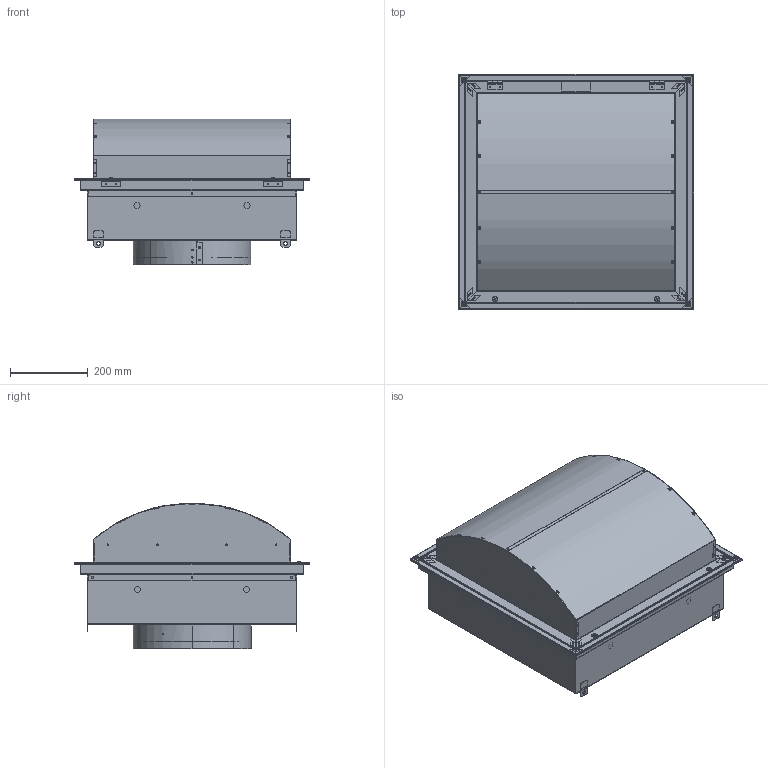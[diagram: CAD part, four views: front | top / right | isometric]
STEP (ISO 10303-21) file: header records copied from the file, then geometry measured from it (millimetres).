
FILE_DESCRIPTION (( 'STEP AP214' ), '1' );
FILE_NAME ('24 X 24_HRDP_.STEP', '2025-07-25T20:40:30', ( '' ), ( '' ), 'SwSTEP 2.0', 'SolidWorks 2024', '' );
FILE_SCHEMA (( 'AUTOMOTIVE_DESIGN' ));
Length unit declared in the file: inch
Products named in the file (42): 061325-HRDPs_PLASTER-SUB_L03; 061325-HRDPs_R3B2B-SUB_L03; 061325-HRDPs_FC2B20-A2_L03; 061325-HRDPs_H1B4_L03; 24 X 24_HRDP_; 061325-HRDPs_FP1B20-A2_L03; 061325-HRDPs_H2E5_L03; 061325-HRDPs_H1B8_L03; 061325-HRDPs_FP1B20-A1_L03; 061325-HRDPs_EG5A_L03; 061325-HRDPs_H1F1_L03_1_4 TURN SPRING; 061325-HRDPs_EG5B_L03; 061325-HRDPs_BM5D_L03; 061325-HRDPs_FP1B20-A3_L03; 061325-HRDPs_H1A2_L03; 061325-HRDPs_P1B1B-SUB_L03; 061325-HRDPs_FC2B20-A3_L03; 061325-HRDPs_H1E2_L03; 061325-HRDPs_H1T3_L03_GROMMET, BLADE; 061325-HRDPs_P1B1B_L03; 061325-HRDPs_R3B2B_L03; 061325-HRDPs_FC2B20-A1_L03; 061325-HRDPs_FC2B20-A4_L03; 061325-HRDPs_FP1B20-A4_L03; 061325-HRDPs_FACE-SUB_L03; 061325-HRDPs_K2A1_L03; 061325-HRDPs_H1Z24_L03; 061325-HRDPs_K2A2_L03; 061325-HRDPs_FC2B-SUB_L03; 061325-HRDPs_PERF-SUB_L03; 061325-HRDPs_H2G12_L03; 061325-HRDPs_SM3X4_L03; 061325-HRDPs_H1L1_L03; 061325-HRDPs_H2E1_L03_WELD CLIP; 40º BEVEL FRAME; 061325-HRDPs_SM2X3_L03; 061325-HRDPs_SSRD_L03; 061325-HRDPs_PLENUM MASTER_L03; 061325-HRDPs_H1V7_L03_WASHER, TEFLON: 0.50"OD x 0.25"ID x 0.025"th; 061325-HRDPs_FP1B-SUB_L03; 061325-HRDPs_C1C1C112_L03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
Assembly tree (63 placements, depth 4):
  24 X 24_HRDP_
    061325-HRDPs_PLASTER-SUB_L03
      061325-HRDPs_FC2B-SUB_L03
        061325-HRDPs_FC2B20-A1_L03
        061325-HRDPs_FC2B20-A2_L03
        061325-HRDPs_FC2B20-A3_L03
        061325-HRDPs_FC2B20-A4_L03
        061325-HRDPs_H2E2_L03_WELD CLIP, BOB FRAME  x4
        061325-HRDPs_H2G12_L03  x2
        061325-HRDPs_H1F1_L03_1_4 TURN SPRING  x2
    061325-HRDPs_FACE-SUB_L03
      061325-HRDPs_FP1B-SUB_L03
        061325-HRDPs_FP1B20-A1_L03
        061325-HRDPs_FP1B20-A2_L03
        061325-HRDPs_FP1B20-A3_L03
        061325-HRDPs_FP1B20-A4_L03
        061325-HRDPs_H2E1_L03_WELD CLIP; 40º BEVEL FRAME  x4
        061325-HRDPs_H1E1_L03  x2
        061325-HRDPs_H1E2_L03  x2
        061325-HRDPs_H1L1_L03  x2
        061325-HRDPs_H1Z24_L03
    061325-HRDPs_PERF-SUB_L03
      061325-HRDPs_R3B2B-SUB_L03
        061325-HRDPs_EG5B_L03
        061325-HRDPs_EG5A_L03
        061325-HRDPs_R3B2B_L03
    061325-HRDPs_PLENUM MASTER_L03
      061325-HRDPs_P1B1B-SUB_L03
        061325-HRDPs_P1B1B_L03
        061325-HRDPs_H2E5_L03  x4
    061325-HRDPs_C1C1C112_L03
    061325-HRDPs_SSRD_L03
      061325-HRDPs_H1L1_L03  x4
      061325-HRDPs_BM5D_L03  x2
      061325-HRDPs_SM2X3_L03
      061325-HRDPs_SM3X4_L03
      061325-HRDPs_H1A2_L03
      061325-HRDPs_H1B4_L03
      061325-HRDPs_H1V7_L03_WASHER, TEFLON: 0.50"OD x 0.25"ID x 0.025"th  x2
      061325-HRDPs_K2A2_L03  x2
      061325-HRDPs_H1T3_L03_GROMMET, BLADE  x2
      061325-HRDPs_K2A1_L03
      061325-HRDPs_H1B8_L03
Bounding box: 603.25 x 603.25 x 373.86 mm (x, y, z)
Volume: 1231300 mm3; surface area: 2945944.9 mm2
Topology: 70 solids, 70 shells, 2645 faces, 6716 edges, 4250 vertices
Faces by surface type: plane 1308, cylinder 1032, bspline 153, torus 124, cone 20, sphere 8
Entity records: 69317 total; most frequent: CARTESIAN_POINT 20409, ORIENTED_EDGE 9912, DIRECTION 9816, EDGE_CURVE 4956, AXIS2_PLACEMENT_3D 3477, VERTEX_POINT 3097, VECTOR 2862, LINE 2862
